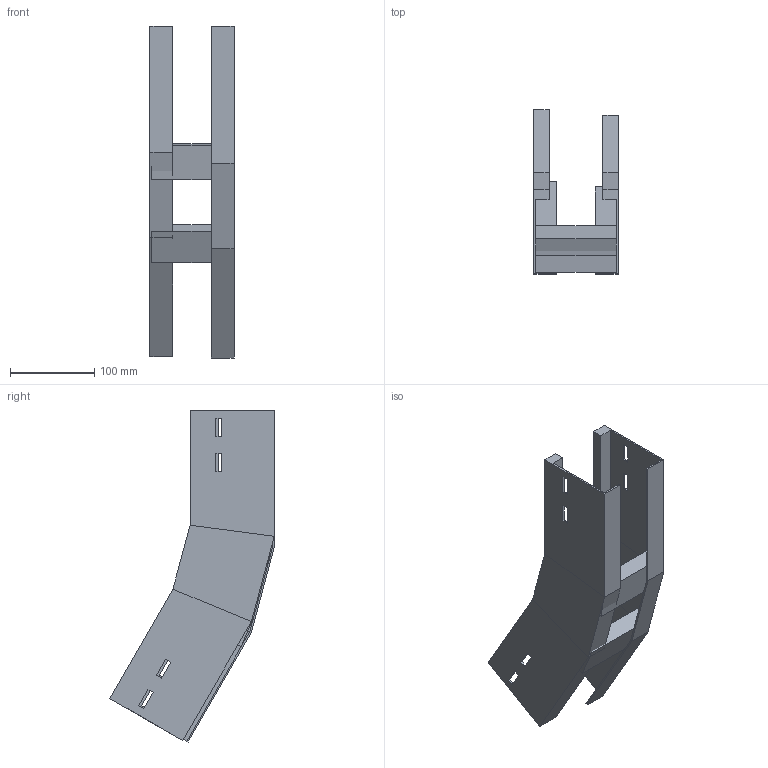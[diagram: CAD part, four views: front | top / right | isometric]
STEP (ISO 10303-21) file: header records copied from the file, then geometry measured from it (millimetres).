
FILE_DESCRIPTION (( 'STEP AP214' ), '1' );
FILE_NAME ('A2X32B3D100XX.step', '2025-03-20T09:56:50', ( '' ), ( '' ), 'SwSTEP 2.0', 'SolidWorks 2023', '' );
FILE_SCHEMA (( 'AUTOMOTIVE_DESIGN' ));
Length unit declared in the file: millimetre
Products named in the file (3): TRAVERSINO_100; A2X32B3D100XX; LONGH.SALITA_30°_H100_R300
Assembly tree (4 placements, depth 2):
  A2X32B3D100XX
    LONGH.SALITA_30°_H100_R300  x2
    TRAVERSINO_100  x2
Bounding box: 100 x 195.25 x 394.23 mm (x, y, z)
Volume: 492886.2 mm3; surface area: 251779.2 mm2
Topology: 4 solids, 4 shells, 96 faces, 232 edges, 144 vertices
Faces by surface type: plane 96
Entity records: 1472 total; most frequent: CARTESIAN_POINT 243, ORIENTED_EDGE 232, DIRECTION 226, EDGE_CURVE 116, LINE 116, VECTOR 116, VERTEX_POINT 72, EDGE_LOOP 56
